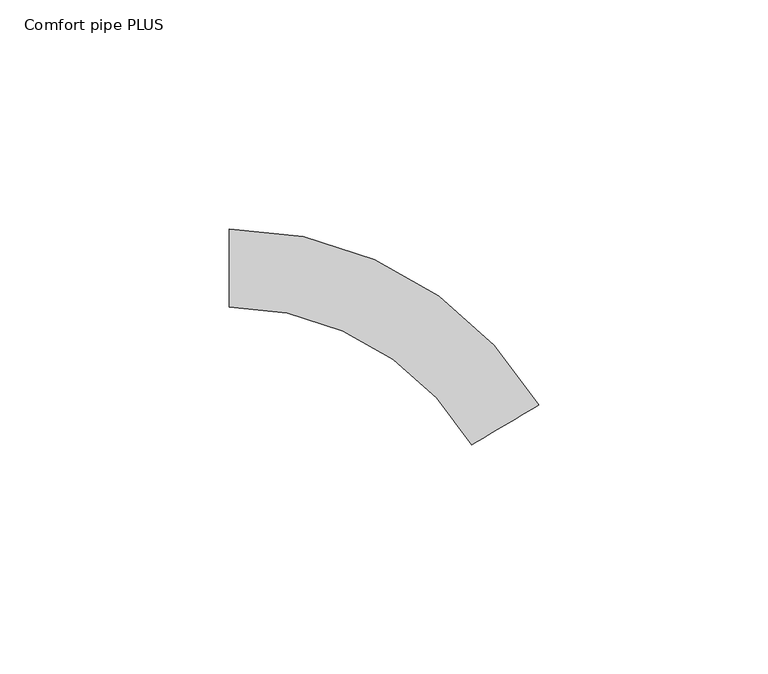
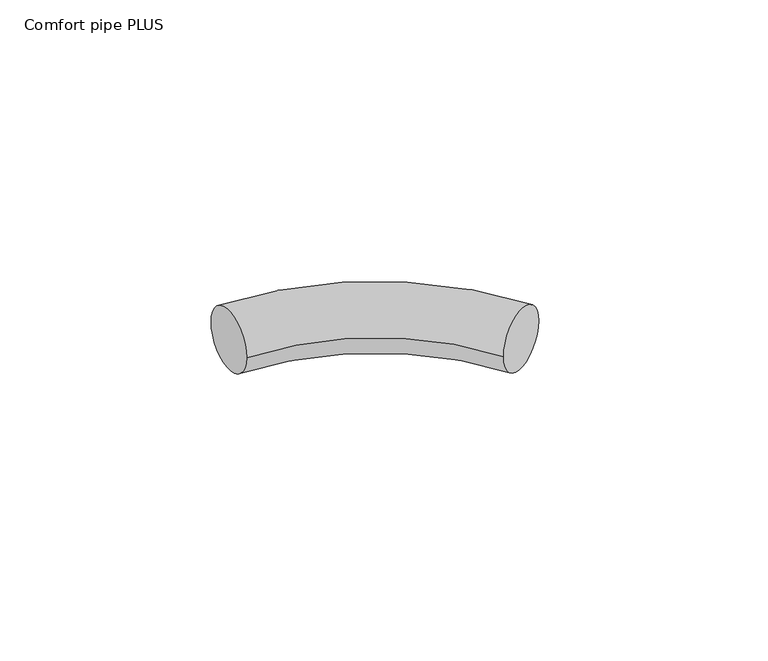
"""IFC4 building model written with IfcOpenShell, lengths in millimetres: pipe fitting geometry, 400_5-_Uponor_curved_Elbow : Comfort pipe PLUS."""

from ifc_helpers import new_model, si_unit, point, frame, origin, place, context, project, spatial, circle_curve, ellipse_curve, trimmed, source, transform, mapped, element, save
from ifc_brep_helpers import plane_surface, revolved_surface, advanced_brep


def comfort_pipe_plus_f00eb310(model_context):
    return source(origin(), model_context, "Body", "AdvancedBrep", [
        advanced_brep(
        [(-39.8266448, 8.5, 0.0), (-39.8266448, -8.5, 0.0), (27.6546871, -29.8936434, 0.0), (13.0408955, -38.5790964, 0.0)],
        [
            (0, 1, circle_curve(frame((-39.8266448, 0.0, 0.0), z_axis=(-1.0, 0.0, 0.0), x_axis=(0.0, -1.0, 0.0)), 8.5)),
            (1, 0, circle_curve(frame((-39.8266448, 0.0, 0.0), z_axis=(-1.0, 0.0, 0.0), x_axis=(0.0, -1.0, 0.0)), 8.5)),
            (2, 3, circle_curve(frame((20.3477913, -34.2363699, 0.0), z_axis=(0.5109090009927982, -0.8596348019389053, 0.0), x_axis=(-0.8596348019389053, -0.5109090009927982, 0.0)), 8.5)),
            (3, 2, circle_curve(frame((20.3477913, -34.2363699, 0.0), z_axis=(0.5109090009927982, -0.8596348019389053, 0.0), x_axis=(-0.8596348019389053, -0.5109090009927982, 0.0)), 8.5)),
            (2, 0, circle_curve(frame((-39.8266448, -70.0, 0.0), z_axis=(0.0, 0.0, 1.0), x_axis=(0.0, 1.0, 0.0)), 78.5)),
            (1, 3, circle_curve(frame((-39.8266448, -70.0, 0.0), z_axis=(0.0, 0.0, -1.0), x_axis=(0.0, 1.0, 0.0)), 61.5)),
        ],
        [
            plane_surface(frame((-39.8266448, 0.0, 0.0), z_axis=(-1.0, 0.0, 0.0), x_axis=(0.0, 0.0, 1.0))),
            plane_surface(frame((20.3477913, -34.2363699, 0.0), z_axis=(0.5109090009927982, -0.8596348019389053, 0.0), x_axis=(0.0, 0.0, 1.0))),
            revolved_surface(trimmed(ellipse_curve(frame((-39.8266448, 0.0, 0.0), z_axis=(1.0, 0.0, 0.0), x_axis=(0.0, -1.0, 0.0)), 8.5, 8.5), [point((-39.8266448, 8.5, 0.0))], [point((-39.8266448, -8.5, 0.0))], True, "CARTESIAN"), (-39.8266448, -70.0, 0.0), (0.0, 0.0, 1.0)),
            revolved_surface(trimmed(ellipse_curve(frame((-39.8266448, 0.0, 0.0), z_axis=(1.0, 0.0, 0.0), x_axis=(0.0, -1.0, 0.0)), 8.5, 8.5), [point((-39.8266448, -8.5, 0.0))], [point((-39.8266448, 8.5, 0.0))], True, "CARTESIAN"), (-39.8266448, -70.0, 0.0), (0.0, 0.0, 1.0)),
        ],
        [
            (0, [[1, 2]]),
            (1, [[3, 4]]),
            (2, [[-3, 5, -2, 6]]),
            (3, [[-4, -6, -1, -5]]),
        ],
    ),
    ])


if __name__ == "__main__":
    model = new_model("IFC4")
    model_context = context("Model", 3, world=origin())
    ifc_project = project(units=[si_unit("LENGTHUNIT", "METRE", prefix="MILLI")], contexts=[model_context])
    site = spatial("IfcSite", under=ifc_project)
    building = spatial("IfcBuilding", under=site)
    placement = place(None, origin())
    comfort_pipe_plus_shape = comfort_pipe_plus_f00eb310(model_context)
    element("IfcPipeFitting", 1, ObjectType="400_5-_Uponor_curved_Elbow : Comfort pipe PLUS", at=placement, inside=building, context=model_context, shape_type="MappedRepresentation", body=[
        mapped(comfort_pipe_plus_shape, transform((0.0, 0.0, 0.0), x_axis=(1.0, 0.0, 0.0), y_axis=(0.0, 1.0, 0.0), z_axis=(0.0, 0.0, 1.0))),
    ])
    save(model, "model.ifc")
